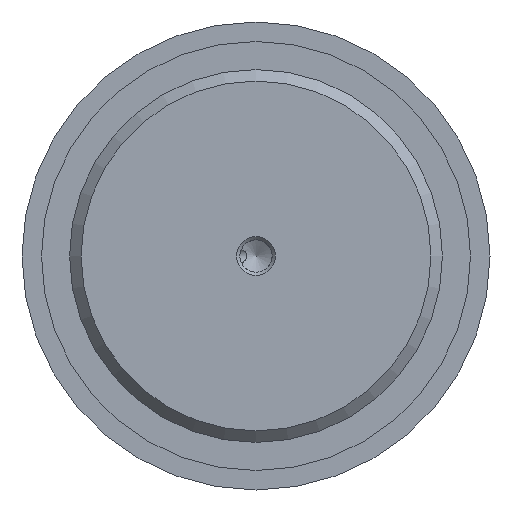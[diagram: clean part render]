
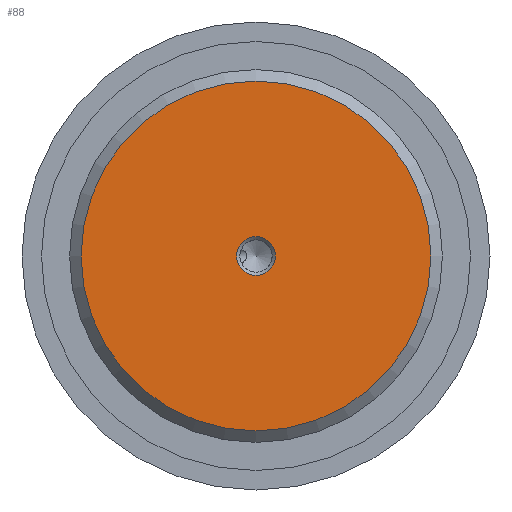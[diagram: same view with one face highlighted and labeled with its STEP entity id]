
A CAD part, front view. The second image highlights one B-rep face of the part: STEP entity #88.
In plain terms, the highlighted planar face has unit normal (0, -1, 0).
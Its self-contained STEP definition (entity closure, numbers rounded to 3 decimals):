
#88 = ADVANCED_FACE( '', ( #136, #137 ), #138, .F. );
#136 = FACE_BOUND( '', #202, .T. );
#137 = FACE_OUTER_BOUND( '', #203, .T. );
#138 = PLANE( '', #204 );
#202 = EDGE_LOOP( '', ( #316 ) );
#203 = EDGE_LOOP( '', ( #317 ) );
#204 = AXIS2_PLACEMENT_3D( '', #318, #319, #320 );
#316 = ORIENTED_EDGE( '', *, *, #434, .F. );
#317 = ORIENTED_EDGE( '', *, *, #435, .T. );
#318 = CARTESIAN_POINT( '', ( 22.423, 0., 0. ) );
#319 = DIRECTION( '', ( 0., 1., 0. ) );
#320 = DIRECTION( '', ( 0., 0., 1. ) );
#434 = EDGE_CURVE( '', #503, #503, #504, .T. );
#435 = EDGE_CURVE( '', #505, #505, #506, .T. );
#503 = VERTEX_POINT( '', #712 );
#504 = CIRCLE( '', #713, 2.5 );
#505 = VERTEX_POINT( '', #714 );
#506 = CIRCLE( '', #715, 22.423 );
#712 = CARTESIAN_POINT( '', ( 0., 0., -2.5 ) );
#713 = AXIS2_PLACEMENT_3D( '', #794, #795, #796 );
#714 = CARTESIAN_POINT( '', ( 0., 0., -22.423 ) );
#715 = AXIS2_PLACEMENT_3D( '', #797, #798, #799 );
#794 = CARTESIAN_POINT( '', ( 0., 0., 0. ) );
#795 = DIRECTION( '', ( 0., -1., 0. ) );
#796 = DIRECTION( '', ( 0., 0., -1. ) );
#797 = CARTESIAN_POINT( '', ( 0., 0., 0. ) );
#798 = DIRECTION( '', ( 0., -1., 0. ) );
#799 = DIRECTION( '', ( 0., 0., -1. ) );
